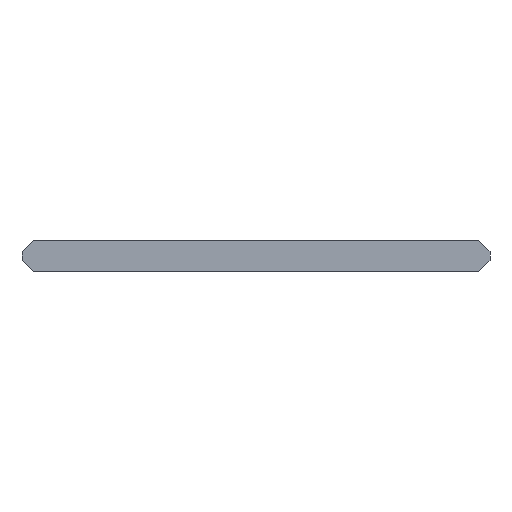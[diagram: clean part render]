
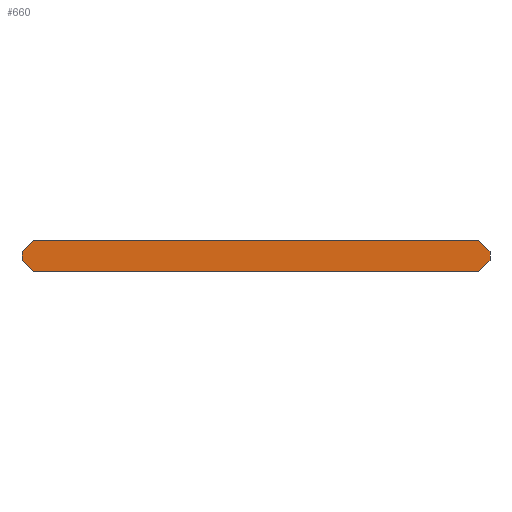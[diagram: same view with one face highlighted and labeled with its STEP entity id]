
A CAD part, front view. The second image highlights one B-rep face of the part: STEP entity #660.
In plain terms, the highlighted planar face has unit normal (0, -1, 0).
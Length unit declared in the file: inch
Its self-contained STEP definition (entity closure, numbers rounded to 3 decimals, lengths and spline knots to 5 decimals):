
#13 = VERTEX_POINT ( 'NONE', #251 ) ;
#16 = EDGE_CURVE ( 'NONE', #76, #118, #547, .T. ) ;
#51 = DIRECTION ( 'NONE',  ( -0.707, 0., 0.707 ) ) ;
#54 = CARTESIAN_POINT ( 'NONE',  ( -1.9964, -1.03867, 0.09 ) ) ;
#61 = VECTOR ( 'NONE', #51, 39.37008 ) ;
#69 = AXIS2_PLACEMENT_3D ( 'NONE', #388, #753, #408 ) ;
#73 = CARTESIAN_POINT ( 'NONE',  ( 1.7436, -1.03867, 0.09 ) ) ;
#75 = FACE_OUTER_BOUND ( 'NONE', #162, .T. ) ;
#76 = VERTEX_POINT ( 'NONE', #300 ) ;
#79 = EDGE_CURVE ( 'NONE', #118, #13, #364, .T. ) ;
#83 = ORIENTED_EDGE ( 'NONE', *, *, #16, .T. ) ;
#90 = VERTEX_POINT ( 'NONE', #542 ) ;
#110 = DIRECTION ( 'NONE',  ( 0., 0., -1. ) ) ;
#118 = VERTEX_POINT ( 'NONE', #54 ) ;
#123 = EDGE_CURVE ( 'NONE', #13, #90, #407, .T. ) ;
#138 = CARTESIAN_POINT ( 'NONE',  ( 1.6536, -1.03867, 0.25 ) ) ;
#143 = CARTESIAN_POINT ( 'NONE',  ( 1.7436, -1.03867, 0.09 ) ) ;
#162 = EDGE_LOOP ( 'NONE', ( #465, #191, #252, #450, #496, #831, #83, #716 ) ) ;
#169 = CARTESIAN_POINT ( 'NONE',  ( 1.7436, -1.03867, 0.16 ) ) ;
#174 = CARTESIAN_POINT ( 'NONE',  ( -1.9064, -1.03867, 0.25 ) ) ;
#176 = DIRECTION ( 'NONE',  ( 1., 0., 0. ) ) ;
#191 = ORIENTED_EDGE ( 'NONE', *, *, #846, .T. ) ;
#203 = DIRECTION ( 'NONE',  ( 0., 0., -1. ) ) ;
#208 = DIRECTION ( 'NONE',  ( 0.707, 0., 0.707 ) ) ;
#227 = CARTESIAN_POINT ( 'NONE',  ( 1.7436, -1.03867, 0.25 ) ) ;
#251 = CARTESIAN_POINT ( 'NONE',  ( -1.9064, -1.03867, 0. ) ) ;
#252 = ORIENTED_EDGE ( 'NONE', *, *, #734, .F. ) ;
#293 = EDGE_CURVE ( 'NONE', #456, #659, #797, .T. ) ;
#300 = CARTESIAN_POINT ( 'NONE',  ( -1.9964, -1.03867, 0.16 ) ) ;
#329 = CARTESIAN_POINT ( 'NONE',  ( -1.9964, -1.03867, 0.25 ) ) ;
#338 = VECTOR ( 'NONE', #203, 39.37008 ) ;
#340 = LINE ( 'NONE', #174, #829 ) ;
#345 = CARTESIAN_POINT ( 'NONE',  ( -1.9964, -1.03867, 0. ) ) ;
#361 = VECTOR ( 'NONE', #110, 39.37008 ) ;
#364 = LINE ( 'NONE', #606, #722 ) ;
#388 = CARTESIAN_POINT ( 'NONE',  ( -1.9964, -1.03867, 0.25 ) ) ;
#401 = VECTOR ( 'NONE', #208, 39.37008 ) ;
#403 = DIRECTION ( 'NONE',  ( 0.707, 0., -0.707 ) ) ;
#407 = LINE ( 'NONE', #345, #770 ) ;
#408 = DIRECTION ( 'NONE',  ( 0., 0., 1. ) ) ;
#450 = ORIENTED_EDGE ( 'NONE', *, *, #293, .T. ) ;
#456 = VERTEX_POINT ( 'NONE', #169 ) ;
#458 = LINE ( 'NONE', #73, #401 ) ;
#465 = ORIENTED_EDGE ( 'NONE', *, *, #123, .T. ) ;
#478 = CARTESIAN_POINT ( 'NONE',  ( -1.9964, -1.03867, 0.25 ) ) ;
#487 = EDGE_CURVE ( 'NONE', #679, #76, #340, .T. ) ;
#496 = ORIENTED_EDGE ( 'NONE', *, *, #657, .F. ) ;
#541 = DIRECTION ( 'NONE',  ( -0.707, 0., -0.707 ) ) ;
#542 = CARTESIAN_POINT ( 'NONE',  ( 1.6536, -1.03867, 0. ) ) ;
#547 = LINE ( 'NONE', #478, #361 ) ;
#576 = LINE ( 'NONE', #329, #799 ) ;
#605 = VERTEX_POINT ( 'NONE', #143 ) ;
#606 = CARTESIAN_POINT ( 'NONE',  ( -1.9964, -1.03867, 0.09 ) ) ;
#657 = EDGE_CURVE ( 'NONE', #679, #659, #576, .T. ) ;
#659 = VERTEX_POINT ( 'NONE', #138 ) ;
#660 = ADVANCED_FACE ( 'NONE', ( #75 ), #709, .F. ) ;
#679 = VERTEX_POINT ( 'NONE', #775 ) ;
#680 = LINE ( 'NONE', #227, #338 ) ;
#709 = PLANE ( 'NONE',  #69 ) ;
#716 = ORIENTED_EDGE ( 'NONE', *, *, #79, .T. ) ;
#722 = VECTOR ( 'NONE', #403, 39.37008 ) ;
#734 = EDGE_CURVE ( 'NONE', #456, #605, #680, .T. ) ;
#753 = DIRECTION ( 'NONE',  ( 0., 1., 0. ) ) ;
#770 = VECTOR ( 'NONE', #176, 39.37008 ) ;
#775 = CARTESIAN_POINT ( 'NONE',  ( -1.9064, -1.03867, 0.25 ) ) ;
#797 = LINE ( 'NONE', #873, #61 ) ;
#799 = VECTOR ( 'NONE', #879, 39.37008 ) ;
#829 = VECTOR ( 'NONE', #541, 39.37008 ) ;
#831 = ORIENTED_EDGE ( 'NONE', *, *, #487, .T. ) ;
#846 = EDGE_CURVE ( 'NONE', #90, #605, #458, .T. ) ;
#873 = CARTESIAN_POINT ( 'NONE',  ( 1.6536, -1.03867, 0.25 ) ) ;
#879 = DIRECTION ( 'NONE',  ( 1., 0., 0. ) ) ;
